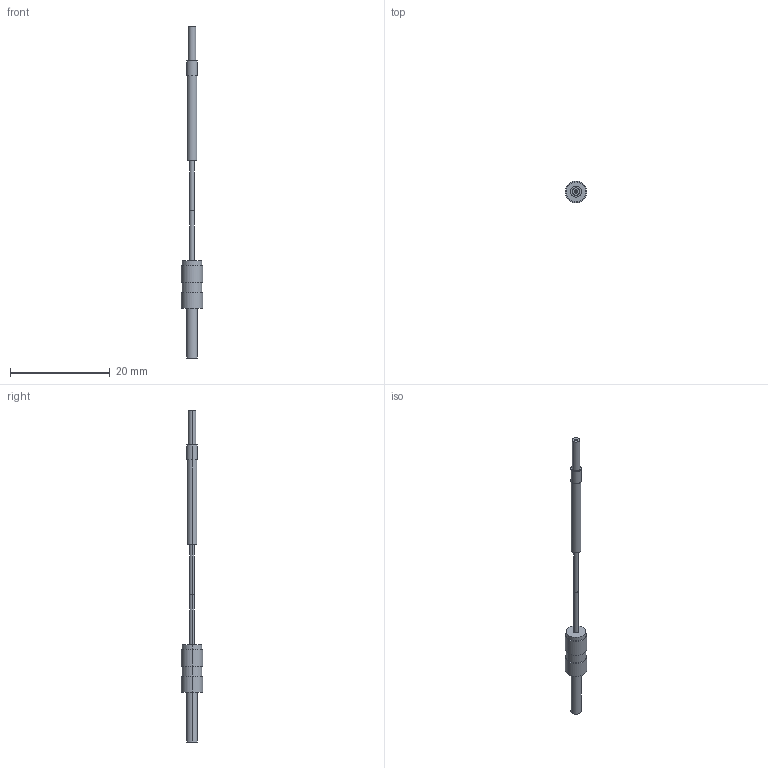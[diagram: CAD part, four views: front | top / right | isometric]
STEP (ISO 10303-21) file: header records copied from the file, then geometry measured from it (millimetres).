
FILE_DESCRIPTION (( 'STEP AP203' ), '1' );
FILE_NAME ('FT-P2.STEP', '2005-09-08T02:17:54', ( '' ), ( '' ), 'SwSTEP 2.0', 'SolidWorks 2004073', '' );
FILE_SCHEMA (( 'CONFIG_CONTROL_DESIGN' ));
Length unit declared in the file: millimetre
Products named in the file (1): FT-P2
Bounding box: 4.33 x 4.33 x 66.5 mm (x, y, z)
Volume: 264.5 mm3; surface area: 460.4 mm2
Topology: 2 solids, 2 shells, 44 faces, 84 edges, 56 vertices
Faces by surface type: cylinder 28, plane 16
Entity records: 1219 total; most frequent: DIRECTION 230, CARTESIAN_POINT 185, ORIENTED_EDGE 168, AXIS2_PLACEMENT_3D 101, EDGE_CURVE 84, VERTEX_POINT 56, EDGE_LOOP 56, CIRCLE 56
